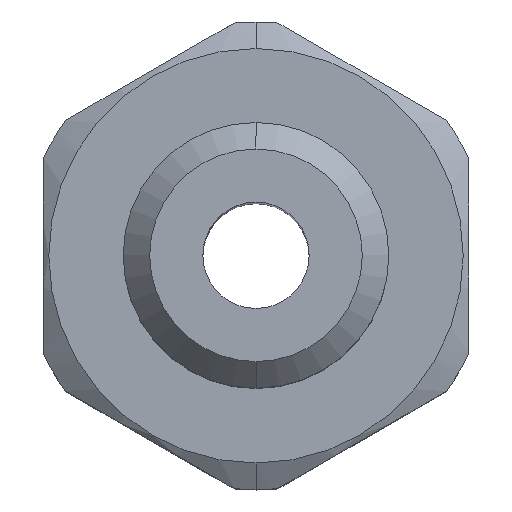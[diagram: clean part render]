
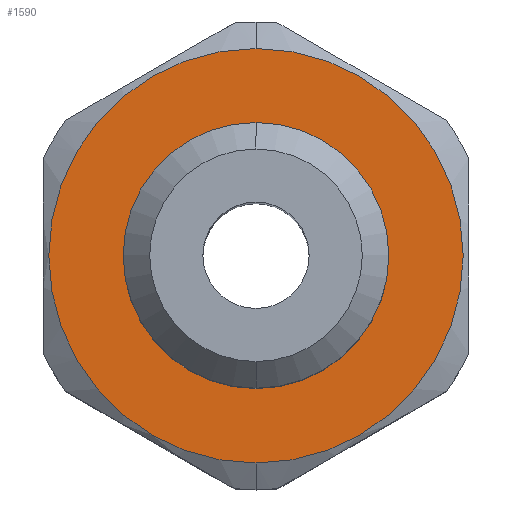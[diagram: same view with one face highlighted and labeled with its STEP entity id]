
A CAD part, top view. The second image highlights one B-rep face of the part: STEP entity #1590.
In plain terms, the highlighted planar face has unit normal (0, 0, 1).
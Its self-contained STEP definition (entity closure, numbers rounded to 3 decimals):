
#17 = AXIS2_PLACEMENT_3D ( 'NONE', #1441, #1512, #1516 ) ;
#43 = EDGE_LOOP ( 'NONE', ( #1603, #1058 ) ) ;
#61 = FACE_BOUND ( 'NONE', #43, .T. ) ;
#63 = EDGE_CURVE ( 'NONE', #588, #1203, #635, .T. ) ;
#78 = CARTESIAN_POINT ( 'NONE',  ( 0., -3.9, 19. ) ) ;
#141 = EDGE_LOOP ( 'NONE', ( #359, #709 ) ) ;
#182 = EDGE_CURVE ( 'NONE', #770, #970, #1186, .T. ) ;
#276 = DIRECTION ( 'NONE',  ( 0., 0., -1. ) ) ;
#333 = CARTESIAN_POINT ( 'NONE',  ( 0., -2.5, 19. ) ) ;
#359 = ORIENTED_EDGE ( 'NONE', *, *, #1080, .T. ) ;
#367 = CIRCLE ( 'NONE', #1089, 3.9 ) ;
#389 = DIRECTION ( 'NONE',  ( -1., 0., 0. ) ) ;
#444 = AXIS2_PLACEMENT_3D ( 'NONE', #1588, #276, #389 ) ;
#526 = AXIS2_PLACEMENT_3D ( 'NONE', #1107, #1398, #1151 ) ;
#588 = VERTEX_POINT ( 'NONE', #78 ) ;
#616 = CIRCLE ( 'NONE', #17, 2.5 ) ;
#635 = CIRCLE ( 'NONE', #1529, 3.9 ) ;
#709 = ORIENTED_EDGE ( 'NONE', *, *, #63, .T. ) ;
#770 = VERTEX_POINT ( 'NONE', #1536 ) ;
#784 = PLANE ( 'NONE',  #444 ) ;
#914 = EDGE_CURVE ( 'NONE', #970, #770, #616, .T. ) ;
#970 = VERTEX_POINT ( 'NONE', #333 ) ;
#1058 = ORIENTED_EDGE ( 'NONE', *, *, #914, .F. ) ;
#1080 = EDGE_CURVE ( 'NONE', #1203, #588, #367, .T. ) ;
#1086 = FACE_OUTER_BOUND ( 'NONE', #141, .T. ) ;
#1089 = AXIS2_PLACEMENT_3D ( 'NONE', #1542, #1655, #1662 ) ;
#1107 = CARTESIAN_POINT ( 'NONE',  ( 0., 0., 19. ) ) ;
#1151 = DIRECTION ( 'NONE',  ( 0., 1., 0. ) ) ;
#1186 = CIRCLE ( 'NONE', #526, 2.5 ) ;
#1203 = VERTEX_POINT ( 'NONE', #1443 ) ;
#1398 = DIRECTION ( 'NONE',  ( 0., 0., 1. ) ) ;
#1441 = CARTESIAN_POINT ( 'NONE',  ( 0., 0., 19. ) ) ;
#1443 = CARTESIAN_POINT ( 'NONE',  ( 0., 3.9, 19. ) ) ;
#1487 = CARTESIAN_POINT ( 'NONE',  ( 0., 0., 19. ) ) ;
#1492 = DIRECTION ( 'NONE',  ( 0., 0., 1. ) ) ;
#1505 = DIRECTION ( 'NONE',  ( 0., 1., 0. ) ) ;
#1512 = DIRECTION ( 'NONE',  ( 0., 0., 1. ) ) ;
#1516 = DIRECTION ( 'NONE',  ( 0., 1., 0. ) ) ;
#1529 = AXIS2_PLACEMENT_3D ( 'NONE', #1487, #1492, #1505 ) ;
#1536 = CARTESIAN_POINT ( 'NONE',  ( 0., 2.5, 19. ) ) ;
#1542 = CARTESIAN_POINT ( 'NONE',  ( 0., 0., 19. ) ) ;
#1588 = CARTESIAN_POINT ( 'NONE',  ( 0., -6., 19. ) ) ;
#1590 = ADVANCED_FACE ( 'NONE', ( #61, #1086 ), #784, .F. ) ;
#1603 = ORIENTED_EDGE ( 'NONE', *, *, #182, .F. ) ;
#1655 = DIRECTION ( 'NONE',  ( 0., 0., 1. ) ) ;
#1662 = DIRECTION ( 'NONE',  ( 0., 1., 0. ) ) ;
